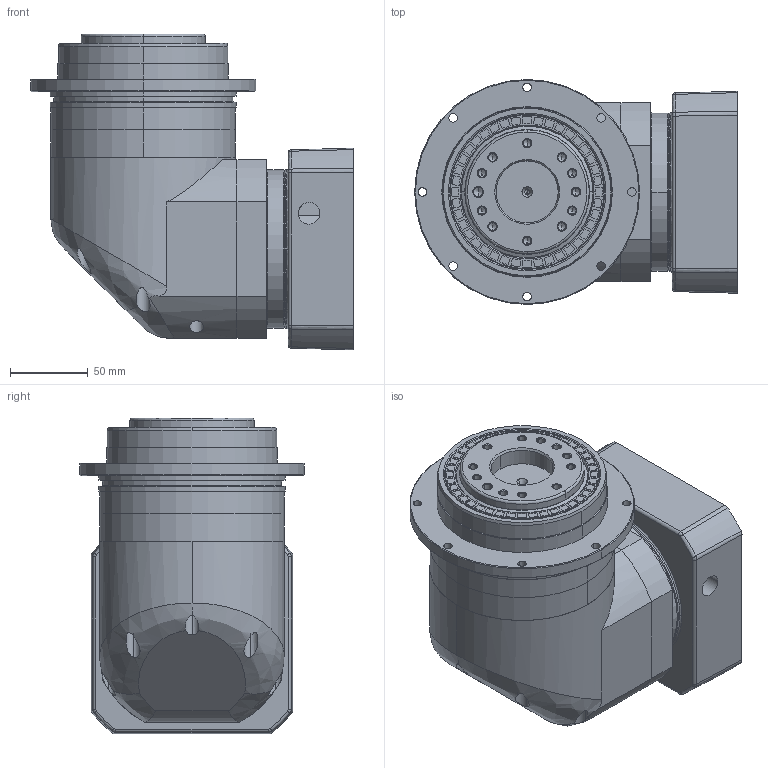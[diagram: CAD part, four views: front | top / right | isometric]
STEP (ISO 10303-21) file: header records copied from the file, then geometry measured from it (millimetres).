
FILE_DESCRIPTION (( 'STEP AP214' ), '1' );
FILE_NAME ('EVT110-L1-P2 22-110-145-M8.STEP', '2021-04-27T09:26:58', ( 'User' ), ( 'china' ), 'SwSTEP 2.0', 'SolidWorks 2016', '' );
FILE_SCHEMA (( 'AUTOMOTIVE_DESIGN' ));
Length unit declared in the file: millimetre
Products named in the file (13): EVT110-L1-P2 22-110-145-M8; M8-16; M6-14樓粟菜; M5-12樓粟菜; 蚐猾80x100x7; 输入轴EVT115D-22; 输入锁紧环26X63.5X16; 怀堤俴陎殤EVT110D; 镂空输入法兰-110X44.5XM8; 输入端壳体EVT110D; 输出内齿圈壳体EVT110D; 怀堤傷褲极EVT110D; 珨撰眻褒眊极EVT110D
Assembly tree (29 placements, depth 2):
  EVT110-L1-P2 22-110-145-M8
    珨撰眻褒眊极EVT110D
    怀堤傷褲极EVT110D
    输出内齿圈壳体EVT110D
    输入端壳体EVT110D
    镂空输入法兰-110X44.5XM8
    怀堤俴陎殤EVT110D
    输入锁紧环26X63.5X16
    输入轴EVT115D-22
    蚐猾80x100x7
    M5-12樓粟菜  x7
    M6-14樓粟菜  x12
    M8-16
Bounding box: 208 x 145 x 203.5 mm (x, y, z)
Volume: 2657117.8 mm3; surface area: 369786.1 mm2
Topology: 10 solids, 48 shells, 1731 faces, 4145 edges, 2523 vertices
Faces by surface type: plane 514, cylinder 479, bspline 391, cone 268, torus 79
Entity records: 70953 total; most frequent: CARTESIAN_POINT 28729, ORIENTED_EDGE 5960, DIRECTION 5273, EDGE_CURVE 2987, AXIS2_PLACEMENT_3D 2156, VERTEX_POINT 1830, EDGE_LOOP 1497, UNCERTAINTY_MEASURE_WITH_UNIT 1336
